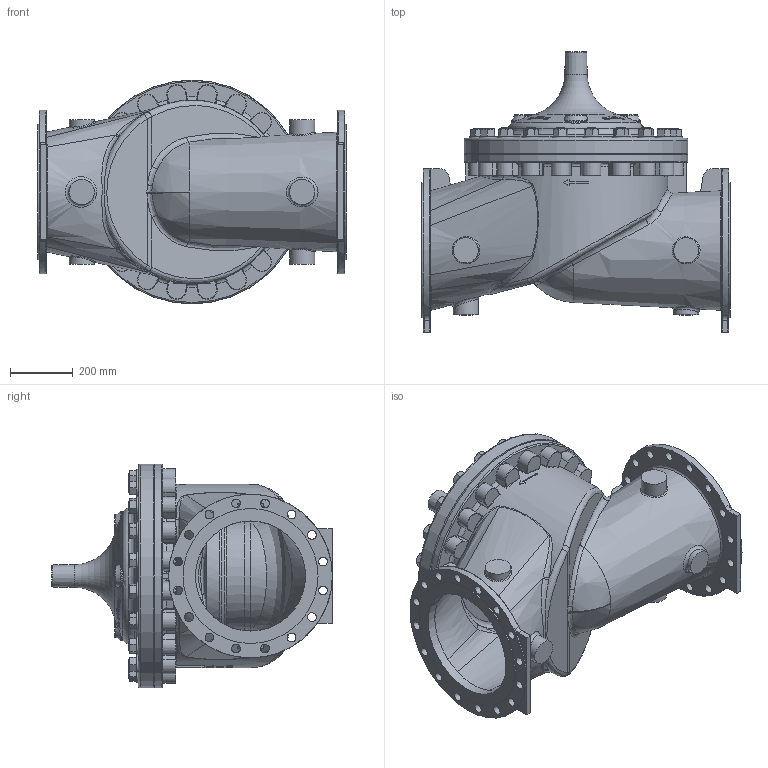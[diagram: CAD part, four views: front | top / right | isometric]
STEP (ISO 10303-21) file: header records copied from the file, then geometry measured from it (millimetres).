
FILE_DESCRIPTION(/* description */ (''),/* implementation_level */ '2;1');
FILE_NAME(/* name */ 'G:\Doc_Liberes\SymbolesCAD\Modeles_3D\FichierSTP\VanneDeBase\NGE350-16RF.stp',/* time_stamp */ '2023-08-17T15:09:07+02:00',/* author */ ('theo'),/* organization */ (''),/* preprocessor_version */ 'ST-DEVELOPER v18.1',/* originating_system */ 'Autodesk Inventor 2022',/* authorisation */ '');
FILE_SCHEMA (('AUTOMOTIVE_DESIGN { 1 0 10303 214 3 1 1 }'));
Products named in the file (1): nge350-16_Simplifier_1
Bounding box: 980 x 891.81 x 711.2 mm (x, y, z)
Volume: 68273649.9 mm3; surface area: 5385757.7 mm2
Topology: 1 solids, 2 shells, 2234 faces, 5642 edges, 3515 vertices
Faces by surface type: plane 800, cone 498, bspline 406, cylinder 343, torus 148, sphere 39
Full cylindrical faces by diameter (mm): 28 x32, 28.575 x40, 32 x1, 57.15 x20, 70 x1, 80 x6, 350 x2, 378 x1, 381.5 x1, 381.508 x1, 429 x2, 520 x2, 685.37 x1, 687.7 x1, 710 x1, 711.2 x1
Entity records: 93565 total; most frequent: CARTESIAN_POINT 42998, ORIENTED_EDGE 11252, DIRECTION 10042, EDGE_CURVE 5626, AXIS2_PLACEMENT_3D 4377, VERTEX_POINT 3513, CIRCLE 2459, EDGE_LOOP 2455
